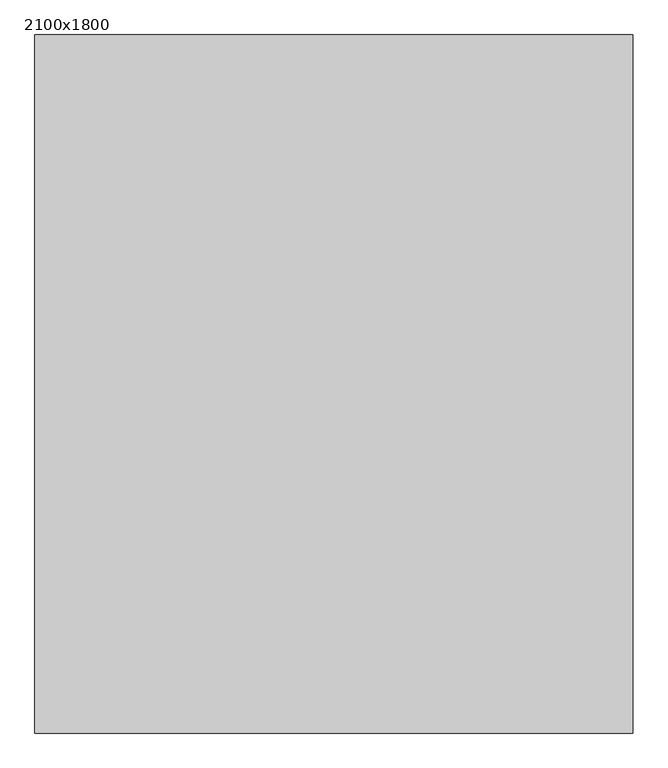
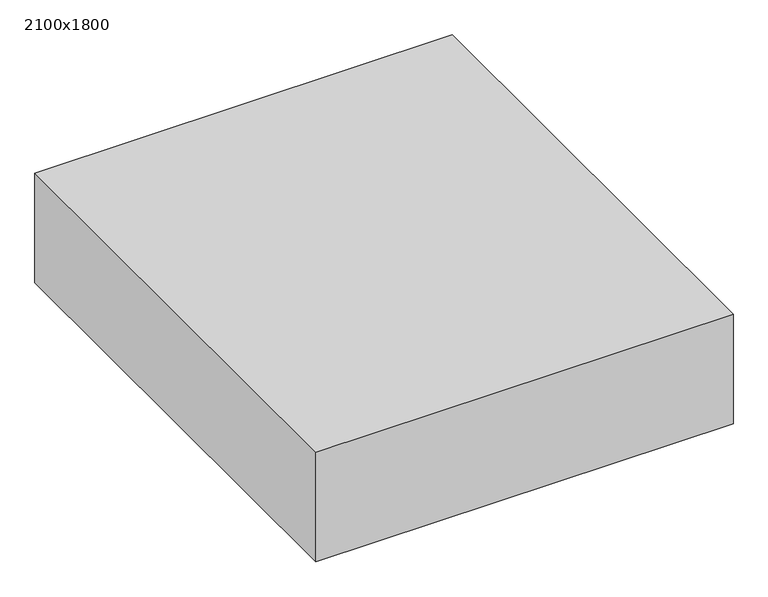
"""IFC4 building model written with IfcOpenShell, lengths in millimetres: furniture geometry, Fu_кровать x2_LEG : 2100x1800."""

from ifc_helpers import new_model, si_unit, origin, origin_with_axes, place, context, project, spatial, polyline, outline, extrude, source, transform, mapped, element, save


def furniture_2100x1800_bd9d3ce1(model_context):
    return source(origin(), model_context, "Body", "SweptSolid", [
        extrude(outline(polyline([(900.0, -815.5704918), (-900.0, -815.5704918), (-900.0, 1284.4295082), (900.0, 1284.4295082), (900.0, -815.5704918)])), origin_with_axes(), (0.0, 0.0, 1.0), 500.0),
    ])


if __name__ == "__main__":
    model = new_model("IFC4")
    model_context = context("Model", 3, world=origin())
    ifc_project = project(units=[si_unit("LENGTHUNIT", "METRE", prefix="MILLI")], contexts=[model_context])
    site = spatial("IfcSite", under=ifc_project)
    building = spatial("IfcBuilding", under=site)
    placement = place(None, origin())
    furniture_2100x1800_shape = furniture_2100x1800_bd9d3ce1(model_context)
    element("IfcFurniture", 1, ObjectType="Fu_кровать x2_LEG : 2100x1800", at=placement, inside=building, context=model_context, shape_type="MappedRepresentation", body=[
        mapped(furniture_2100x1800_shape, transform((0.0, 0.0, 0.0), x_axis=(1.0, 0.0, 0.0), y_axis=(0.0, 1.0, 0.0), z_axis=(0.0, 0.0, 1.0))),
    ])
    save(model, "model.ifc")
